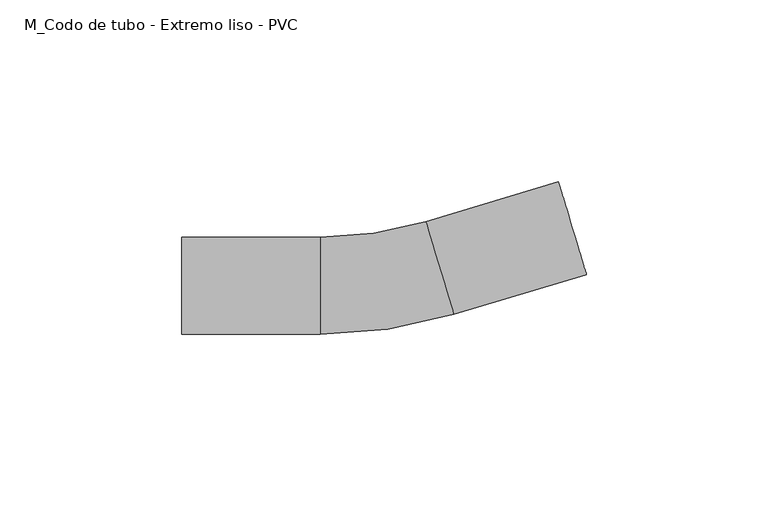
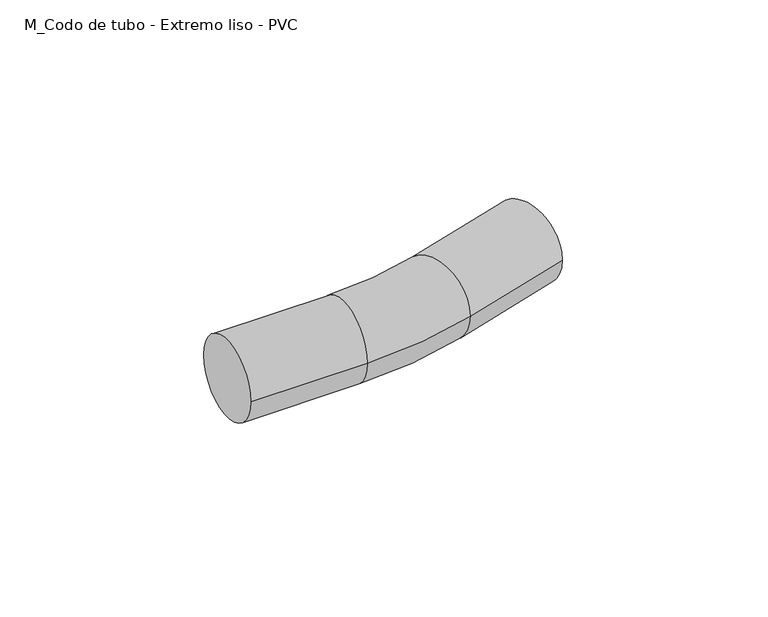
"""IFC4 building model written with IfcOpenShell, lengths in millimetres: cable carrier fitting geometry, M_Codo de tubo - Extremo liso - PVC : CODO ILUMINACION."""

import ifcopenshell
import ifcopenshell.guid

model = None  # the IFC model being written
_history = None  # IfcOwnerHistory: only IFC2X3 demands one
_inside = {}  # id of a spatial element -> (the spatial element, [elements in it])
_under = {}  # id of a project, library or spatial element -> (it, [spatial elements below it])
_declared = {}  # id of a project -> (the project, [libraries it declares])
_typed = {}  # id of a type object -> (the type object, [elements of that type])
_made_of = {}  # id of a material, layer set ... -> (it, [elements and type objects made of it])


def new_model(schema):
    """Start an empty IFC model of exactly this schema.

    Asked for "IFC4X3", IfcOpenShell would pick the latest addendum, in which some entities
    have other attributes; the version numbers below select the first issue.
    IFC2X3 requires an IfcOwnerHistory on every rooted entity: one is made here for all.
    """
    global model, _history
    if schema == "IFC4X3":
        model = ifcopenshell.file(schema_version=(4, 3, 0, 0))
    else:
        model = ifcopenshell.file(schema=schema)
    _inside.clear()
    _under.clear()
    _declared.clear()
    _typed.clear()
    _made_of.clear()
    _history = None
    if model.schema == "IFC2X3":
        org = make("IfcOrganization", Name="unknown")
        user = make(
            "IfcPersonAndOrganization",
            ThePerson=make("IfcPerson", FamilyName="unknown"),
            TheOrganization=org,
        )
        app = make(
            "IfcApplication",
            ApplicationDeveloper=org,
            Version="unknown",
            ApplicationFullName="unknown",
            ApplicationIdentifier="unknown",
        )
        _history = make(
            "IfcOwnerHistory",
            OwningUser=user,
            OwningApplication=app,
            ChangeAction="ADDED",
            CreationDate=0,
        )
    return model


def make(cls, **values):
    """One entity of the class cls with the attributes given. An attribute that is None is left unset."""
    return model.create_entity(
        cls, **{name: value for name, value in values.items() if value is not None}
    )


def rooted(cls, **values):
    """An entity with a GlobalId (a new one), such as an element, a storey or a relation."""
    return make(cls, GlobalId=ifcopenshell.guid.new(), OwnerHistory=_history, **values)


def si_unit(unit_type, name, prefix=None):
    """IfcSIUnit, for example si_unit("LENGTHUNIT", "METRE", prefix="MILLI")."""
    return make("IfcSIUnit", UnitType=unit_type, Prefix=prefix, Name=name)


def assignment(units):
    """IfcUnitAssignment: the units of a project."""
    return None if units is None else make("IfcUnitAssignment", Units=units)


def point(xyz):
    """IfcCartesianPoint."""
    return None if xyz is None else make("IfcCartesianPoint", Coordinates=xyz)


def direction(xyz):
    """IfcDirection."""
    return None if xyz is None else make("IfcDirection", DirectionRatios=xyz)


def frame(location, z_axis=None, x_axis=None):
    """IfcAxis2Placement3D, a coordinate frame: its origin and axes. An axis left out is left unset."""
    return make(
        "IfcAxis2Placement3D",
        Location=point(location),
        Axis=direction(z_axis),
        RefDirection=direction(x_axis),
    )


def origin():
    """The frame at (0, 0, 0) with its axes left unset."""
    return frame((0.0, 0.0, 0.0))


def place(relative_to, where):
    """IfcLocalPlacement: puts the frame where relative to a parent placement (None: the world)."""
    return make(
        "IfcLocalPlacement", PlacementRelTo=relative_to, RelativePlacement=where
    )


def context(
    kind, dimensions, precision=None, world=None, true_north=None, identifier=None
):
    """IfcGeometricRepresentationContext, for example the 3D "Model" context."""
    return make(
        "IfcGeometricRepresentationContext",
        ContextIdentifier=identifier,
        ContextType=kind,
        CoordinateSpaceDimension=dimensions,
        Precision=precision,
        WorldCoordinateSystem=world,
        TrueNorth=true_north,
    )


def project(units=None, contexts=None):
    """IfcProject with its units and contexts."""
    return rooted(
        "IfcProject",
        Name="project",
        RepresentationContexts=contexts,
        UnitsInContext=assignment(units),
    )


def spatial(cls, under=None, at=None, **own):
    """A site, building, storey or space (cls), placed at a placement, below another one or the project."""
    s = rooted(cls, ObjectPlacement=at, **own)
    if under is not None:
        _under.setdefault(under.id(), (under, []))[1].append(s)
    return s


def circle_curve(where, radius):
    """IfcCircle in the frame where."""
    return make("IfcCircle", Position=where, Radius=radius)


def ellipse_curve(where, semi_axis1, semi_axis2):
    """IfcEllipse in the frame where."""
    return make(
        "IfcEllipse", Position=where, SemiAxis1=semi_axis1, SemiAxis2=semi_axis2
    )


def trimmed(basis, trim1, trim2, sense, master):
    """IfcTrimmedCurve: the piece of a basis curve between two trims."""
    return make(
        "IfcTrimmedCurve",
        BasisCurve=basis,
        Trim1=trim1,
        Trim2=trim2,
        SenseAgreement=sense,
        MasterRepresentation=master,
    )


def shape(context_of_items, identifier, shape_type, items):
    """IfcShapeRepresentation: the items that make up one representation, for example the "Body"."""
    return make(
        "IfcShapeRepresentation",
        ContextOfItems=context_of_items,
        RepresentationIdentifier=identifier,
        RepresentationType=shape_type,
        Items=items,
    )


def source(mapping_origin, context_of_items, identifier, shape_type, items):
    """IfcRepresentationMap: a shape defined once, which mapped items show again and again."""
    return make(
        "IfcRepresentationMap",
        MappingOrigin=mapping_origin,
        MappedRepresentation=shape(context_of_items, identifier, shape_type, items),
    )


def transform(
    local_origin,
    x_axis=None,
    y_axis=None,
    z_axis=None,
    scale=None,
    scale2=None,
    scale3=None,
    uniform=True,
):
    """IfcCartesianTransformationOperator3D, or its non-uniform kind. x_axis, y_axis, z_axis: its Axis1, 2, 3."""
    if uniform:
        return make(
            "IfcCartesianTransformationOperator3D",
            Axis1=direction(x_axis),
            Axis2=direction(y_axis),
            LocalOrigin=point(local_origin),
            Scale=scale,
            Axis3=direction(z_axis),
        )
    return make(
        "IfcCartesianTransformationOperator3DnonUniform",
        Axis1=direction(x_axis),
        Axis2=direction(y_axis),
        LocalOrigin=point(local_origin),
        Scale=scale,
        Axis3=direction(z_axis),
        Scale2=scale2,
        Scale3=scale3,
    )


def mapped(mapping_source, mapping_target):
    """IfcMappedItem: shows the shape of a source again, moved by a transform."""
    return make(
        "IfcMappedItem", MappingSource=mapping_source, MappingTarget=mapping_target
    )


def made_of(thing, what):
    """Note that an element or type object is made of a material, layer set ...; save() writes the relation."""
    if what is not None:
        _made_of.setdefault(what.id(), (what, []))[1].append(thing)
    return thing


def element(
    cls,
    number,
    at=None,
    inside=None,
    cuts=None,
    type_object=None,
    material=None,
    context=None,
    identifier="Body",
    shape_type=None,
    held_by="IfcProductDefinitionShape",
    body=None,
    shapes=None,
    **own,
):
    """One element of the class cls, such as IfcWall. Its Tag is "e" and its number.

    at: its placement. inside: the storey or other place that contains it. cuts: it is an
    opening in that element (IfcRelVoidsElement). A single representation is given by context,
    identifier, shape_type and body (its items); several are given by shapes. held_by: the class
    of the entity that holds the representations. save() writes the other relations.
    """
    e = rooted(cls, Tag="e%d" % number, ObjectPlacement=at, **own)
    if body is not None:
        shapes = [shape(context, identifier, shape_type, body)]
    if shapes is not None:
        e.Representation = make(held_by, Representations=shapes)
    if inside is not None:
        _inside.setdefault(inside.id(), (inside, []))[1].append(e)
    if cuts is not None:
        rooted(
            "IfcRelVoidsElement", RelatingBuildingElement=cuts, RelatedOpeningElement=e
        )
    if type_object is not None:
        _typed.setdefault(type_object.id(), (type_object, []))[1].append(e)
    return made_of(e, material)


def aggregate(whole, parts):
    """IfcRelAggregates: a whole, such as a stair, and the parts it consists of."""
    return rooted("IfcRelAggregates", RelatingObject=whole, RelatedObjects=parts)


def save(model, path):
    """Write the relations noted so far, then the file.

    IfcRelAggregates (storeys below a building ...), IfcRelContainedInSpatialStructure (elements
    in a storey), IfcRelDefinesByType, IfcRelAssociatesMaterial and IfcRelDeclares: one each for
    every whole, place, type object, material and project.
    """
    for whole, parts in _under.values():
        aggregate(whole, parts)
    for where, things in _inside.values():
        rooted(
            "IfcRelContainedInSpatialStructure",
            RelatedElements=things,
            RelatingStructure=where,
        )
    for kind, things in _typed.values():
        rooted("IfcRelDefinesByType", RelatedObjects=things, RelatingType=kind)
    for what, things in _made_of.values():
        rooted("IfcRelAssociatesMaterial", RelatedObjects=things, RelatingMaterial=what)
    for by, libraries in _declared.values():
        rooted("IfcRelDeclares", RelatingContext=by, RelatedDefinitions=libraries)
    model.write(path)


def plane_surface(at):
    """IfcPlane: the flat surface through the origin of the frame at, square to its z axis."""
    return make("IfcPlane", Position=at)


def cylinder_surface(at, radius):
    """IfcCylindricalSurface: all points at the distance radius from the z axis of the frame at."""
    return make("IfcCylindricalSurface", Position=at, Radius=radius)


def revolved_surface(curve, axis_point, axis_direction):
    """IfcSurfaceOfRevolution: the curve turned about the line through axis_point along axis_direction."""
    return make(
        "IfcSurfaceOfRevolution",
        SweptCurve=make("IfcArbitraryOpenProfileDef", ProfileType="CURVE", Curve=curve),
        AxisPosition=make("IfcAxis1Placement", Location=point(axis_point), Axis=direction(axis_direction)),
    )


def advanced_brep(points, edges, surfaces, faces):
    """IfcAdvancedBrep: a solid bounded by faces that lie on surfaces and meet in shared edges.

    An edge is (start, end): straight between two places in points (the first is 0);
    or (start, end, curve); or (start, end, curve, False) where it runs against its curve.
    A face is (place in surfaces, loops), or (place, loops, False) where it looks against
    its surface's normal. A loop lists edges by number (the first is 1), with a minus sign
    where the edge is run from its end to its start. The first loop is the outer one.
    """
    corners = [point(p) for p in points]
    vertices = [make("IfcVertexPoint", VertexGeometry=c) for c in corners]
    made = []
    for start, end, *more in edges:
        made.append(
            make(
                "IfcEdgeCurve",
                EdgeStart=vertices[start],
                EdgeEnd=vertices[end],
                EdgeGeometry=more[0] if more else make("IfcPolyline", Points=[corners[start], corners[end]]),
                SameSense=more[1] if len(more) > 1 else True,
            )
        )
    hull = []
    for where, loops, *sense in faces:
        bounds = []
        for j, loop in enumerate(loops):
            ring = [make("IfcOrientedEdge", EdgeElement=made[abs(k) - 1], Orientation=k > 0) for k in loop]
            bounds.append(
                make(
                    "IfcFaceOuterBound" if j == 0 else "IfcFaceBound",
                    Bound=make("IfcEdgeLoop", EdgeList=ring),
                    Orientation=True,
                )
            )
        hull.append(make("IfcAdvancedFace", Bounds=bounds, FaceSurface=surfaces[where], SameSense=sense[0] if sense else True))
    return make("IfcAdvancedBrep", Outer=make("IfcClosedShell", CfsFaces=hull))


def m_codo_de_tubo_extremo_liso_pvc_92fde12f(model_context):
    return source(origin(), model_context, "Body", "AdvancedBrep", [
        advanced_brep(
        [(-54.9161963, -13.335, 0.0), (-54.9161963, 13.335, 0.0), (-16.8161963, -13.335, 0.0), (-16.8161963, 13.335, 0.0), (12.2629902, 17.6132267, 0.0), (19.9442848, -7.9266757, 0.0), (56.4298596, 3.0466023, 0.0), (48.7485651, 28.5865047, 0.0)],
        [
            (0, 1, circle_curve(frame((-54.9161963, 0.0, 0.0), z_axis=(-1.0, 0.0, 0.0), x_axis=(0.0, 1.0, 0.0)), 13.335)),
            (1, 0, circle_curve(frame((-54.9161963, 0.0, 0.0), z_axis=(-1.0, 0.0, 0.0), x_axis=(0.0, 1.0, 0.0)), 13.335)),
            (0, 2),
            (2, 3, circle_curve(frame((-16.8161963, 0.0, 0.0), z_axis=(-1.0, 0.0, 0.0), x_axis=(0.0, 1.0, 0.0)), 13.335)),
            (3, 1),
            (3, 2, circle_curve(frame((-16.8161963, 0.0, 0.0), z_axis=(-1.0, 0.0, 0.0), x_axis=(0.0, 1.0, 0.0)), 13.335)),
            (4, 3, circle_curve(frame((-16.8161963, 114.3, 0.0), z_axis=(0.0, 0.0, -1.0), x_axis=(0.0, -1.0, 0.0)), 100.965)),
            (2, 5, circle_curve(frame((-16.8161963, 114.3, 0.0), z_axis=(0.0, 0.0, 1.0), x_axis=(0.0, -1.0, 0.0)), 127.635)),
            (5, 4, circle_curve(frame((16.1036375, 4.8432755, 0.0), z_axis=(-0.9576266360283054, -0.2880125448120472, 0.0), x_axis=(-0.2880125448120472, 0.9576266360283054, 0.0)), 13.335)),
            (4, 5, circle_curve(frame((16.1036375, 4.8432755, 0.0), z_axis=(-0.9576266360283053, -0.28801254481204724, 0.0), x_axis=(-0.28801254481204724, 0.9576266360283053, 0.0)), 13.335)),
            (6, 7, circle_curve(frame((52.5892124, 15.8165535, 0.0), z_axis=(0.9576266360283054, 0.2880125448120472, 0.0), x_axis=(-0.2880125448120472, 0.9576266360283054, 0.0)), 13.335)),
            (7, 6, circle_curve(frame((52.5892124, 15.8165535, 0.0), z_axis=(0.9576266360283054, 0.2880125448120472, 0.0), x_axis=(-0.2880125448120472, 0.9576266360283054, 0.0)), 13.335)),
            (5, 6),
            (7, 4),
        ],
        [
            plane_surface(frame((-54.9161963, 0.0, 0.0), z_axis=(-1.0, 0.0, 0.0), x_axis=(0.0, 0.0, 1.0))),
            cylinder_surface(frame((-54.9161963, 0.0, 0.0), z_axis=(-1.0, 0.0, 0.0), x_axis=(0.0, 1.0, 0.0)), 13.335),
            revolved_surface(trimmed(ellipse_curve(frame((-16.8161963, 0.0, 0.0), z_axis=(-1.0, 0.0, 0.0), x_axis=(0.0, 1.0, 0.0)), 13.335, 13.335), [point((-16.8161963, -13.335, 0.0))], [point((-16.8161963, 13.335, 0.0))], True, "CARTESIAN"), (-16.8161963, 114.3, 0.0), (0.0, 0.0, 1.0)),
            revolved_surface(trimmed(ellipse_curve(frame((-16.8161963, 0.0, 0.0), z_axis=(-1.0, 0.0, 0.0), x_axis=(0.0, 1.0, 0.0)), 13.335, 13.335), [point((-16.8161963, 13.335, 0.0))], [point((-16.8161963, -13.335, 0.0))], True, "CARTESIAN"), (-16.8161963, 114.3, 0.0), (0.0, 0.0, 1.0)),
            plane_surface(frame((52.5892124, 15.8165535, 0.0), z_axis=(0.9576266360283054, 0.2880125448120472, 0.0), x_axis=(0.0, 0.0, 1.0))),
            cylinder_surface(frame((16.1036375, 4.8432755, 0.0), z_axis=(-0.9576266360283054, -0.2880125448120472, 0.0), x_axis=(-0.2880125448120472, 0.9576266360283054, 0.0)), 13.335),
        ],
        [
            (0, [[1, 2]]),
            (1, [[-1, 3, 4, 5]]),
            (1, [[-2, -5, 6, -3]]),
            (2, [[7, -4, 8, 9]]),
            (3, [[-8, -6, -7, 10]]),
            (4, [[11, 12]]),
            (5, [[-9, 13, -12, 14]]),
            (5, [[-10, -14, -11, -13]]),
        ],
    ),
    ])


if __name__ == "__main__":
    model = new_model("IFC4")
    model_context = context("Model", 3, world=origin())
    ifc_project = project(units=[si_unit("LENGTHUNIT", "METRE", prefix="MILLI")], contexts=[model_context])
    site = spatial("IfcSite", under=ifc_project)
    building = spatial("IfcBuilding", under=site)
    placement = place(None, origin())
    m_codo_de_tubo_extremo_liso_pvc_shape = m_codo_de_tubo_extremo_liso_pvc_92fde12f(model_context)
    element("IfcCableCarrierFitting", 1, ObjectType="M_Codo de tubo - Extremo liso - PVC : CODO ILUMINACION", at=placement, inside=building, context=model_context, shape_type="MappedRepresentation", body=[
        mapped(m_codo_de_tubo_extremo_liso_pvc_shape, transform((0.0, 0.0, 0.0), x_axis=(1.0, 0.0, 0.0), y_axis=(0.0, 1.0, 0.0), z_axis=(0.0, 0.0, 1.0))),
    ])
    save(model, "model.ifc")
